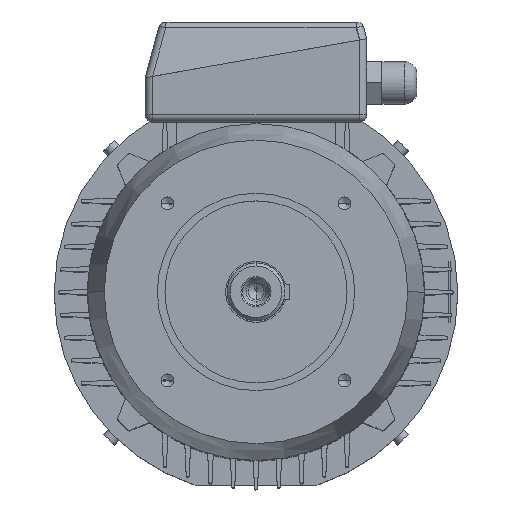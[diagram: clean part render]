
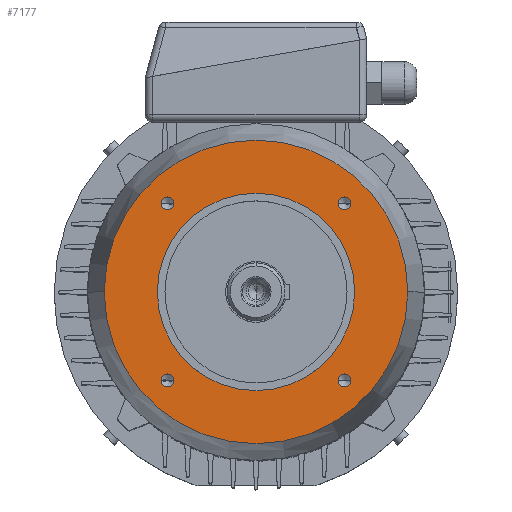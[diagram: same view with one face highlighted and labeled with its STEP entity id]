
A CAD part, top view. The second image highlights one B-rep face of the part: STEP entity #7177.
In plain terms, the highlighted planar face has unit normal (0, 0, 1).
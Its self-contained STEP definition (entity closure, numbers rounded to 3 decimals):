
#16 = CARTESIAN_POINT ( 'NONE',  ( 54.086, 58.336, 58. ) ) ;
#220 = CIRCLE ( 'NONE', #221, 4.25 ) ;
#221 = AXIS2_PLACEMENT_3D ( 'NONE', #222, #229, #230 ) ;
#222 = CARTESIAN_POINT ( 'NONE',  ( 58.336, -58.336, 58. ) ) ;
#229 = DIRECTION ( 'NONE',  ( 0., 0., 1. ) ) ;
#230 = DIRECTION ( 'NONE',  ( 1., 0., 0. ) ) ;
#236 = CIRCLE ( 'NONE', #237, 4.25 ) ;
#237 = AXIS2_PLACEMENT_3D ( 'NONE', #238, #239, #240 ) ;
#238 = CARTESIAN_POINT ( 'NONE',  ( 58.336, 58.336, 58. ) ) ;
#239 = DIRECTION ( 'NONE',  ( 0., 0., 1. ) ) ;
#240 = DIRECTION ( 'NONE',  ( 1., 0., 0. ) ) ;
#392 = CARTESIAN_POINT ( 'NONE',  ( -62.586, 58.336, 58. ) ) ;
#1149 = CARTESIAN_POINT ( 'NONE',  ( 54.086, -58.336, 58. ) ) ;
#1386 = FACE_BOUND ( 'NONE', #7123, .T. ) ;
#1387 = FACE_OUTER_BOUND ( 'NONE', #6744, .T. ) ;
#1388 = FACE_BOUND ( 'NONE', #8594, .T. ) ;
#1389 = FACE_BOUND ( 'NONE', #8575, .T. ) ;
#1390 = FACE_BOUND ( 'NONE', #8180, .T. ) ;
#1391 = FACE_BOUND ( 'NONE', #7789, .T. ) ;
#1392 = PLANE ( 'NONE',  #1393 ) ;
#1393 = AXIS2_PLACEMENT_3D ( 'NONE', #1394, #1395, #1396 ) ;
#1394 = CARTESIAN_POINT ( 'NONE',  ( 0., 100., 58. ) ) ;
#1395 = DIRECTION ( 'NONE',  ( 0., 0., -1. ) ) ;
#1396 = DIRECTION ( 'NONE',  ( -1., 0., 0. ) ) ;
#3809 = CIRCLE ( 'NONE', #3810, 4.25 ) ;
#3810 = AXIS2_PLACEMENT_3D ( 'NONE', #3811, #3812, #3813 ) ;
#3811 = CARTESIAN_POINT ( 'NONE',  ( 58.336, -58.336, 58. ) ) ;
#3812 = DIRECTION ( 'NONE',  ( 0., 0., 1. ) ) ;
#3813 = DIRECTION ( 'NONE',  ( 1., 0., 0. ) ) ;
#4250 = CARTESIAN_POINT ( 'NONE',  ( -54.086, -58.336, 58. ) ) ;
#4374 = CIRCLE ( 'NONE', #4375, 4.25 ) ;
#4375 = AXIS2_PLACEMENT_3D ( 'NONE', #4376, #4377, #4378 ) ;
#4376 = CARTESIAN_POINT ( 'NONE',  ( -58.336, -58.336, 58. ) ) ;
#4377 = DIRECTION ( 'NONE',  ( 0., 0., 1. ) ) ;
#4378 = DIRECTION ( 'NONE',  ( 1., 0., 0. ) ) ;
#4484 = CARTESIAN_POINT ( 'NONE',  ( -65., 0., 58. ) ) ;
#4555 = CARTESIAN_POINT ( 'NONE',  ( 65., 0., 58. ) ) ;
#4684 = CIRCLE ( 'NONE', #4685, 4.25 ) ;
#4685 = AXIS2_PLACEMENT_3D ( 'NONE', #4686, #4687, #4688 ) ;
#4686 = CARTESIAN_POINT ( 'NONE',  ( -58.336, -58.336, 58. ) ) ;
#4687 = DIRECTION ( 'NONE',  ( 0., 0., 1. ) ) ;
#4688 = DIRECTION ( 'NONE',  ( 1., 0., 0. ) ) ;
#4739 = CIRCLE ( 'NONE', #4740, 65. ) ;
#4740 = AXIS2_PLACEMENT_3D ( 'NONE', #4741, #4742, #4743 ) ;
#4741 = CARTESIAN_POINT ( 'NONE',  ( 0., 0., 58. ) ) ;
#4742 = DIRECTION ( 'NONE',  ( 0., 0., 1. ) ) ;
#4743 = DIRECTION ( 'NONE',  ( 1., 0., 0. ) ) ;
#4869 = CARTESIAN_POINT ( 'NONE',  ( -62.586, -58.336, 58. ) ) ;
#4881 = VERTEX_POINT ( 'NONE', #11550 ) ;
#5129 = VERTEX_POINT ( 'NONE', #11676 ) ;
#5310 = CIRCLE ( 'NONE', #5311, 65. ) ;
#5311 = AXIS2_PLACEMENT_3D ( 'NONE', #5312, #5313, #5314 ) ;
#5312 = CARTESIAN_POINT ( 'NONE',  ( 0., 0., 58. ) ) ;
#5313 = DIRECTION ( 'NONE',  ( 0., 0., 1. ) ) ;
#5314 = DIRECTION ( 'NONE',  ( 1., 0., 0. ) ) ;
#5368 = EDGE_CURVE ( 'NONE', #5129, #4881, #11751, .T. ) ;
#5447 = ORIENTED_EDGE ( 'NONE', *, *, #6733, .F. ) ;
#6012 = EDGE_CURVE ( 'NONE', #6673, #6938, #12029, .T. ) ;
#6372 = CARTESIAN_POINT ( 'NONE',  ( 62.586, -58.336, 58. ) ) ;
#6572 = EDGE_CURVE ( 'NONE', #4881, #5129, #12339, .T. ) ;
#6582 = VERTEX_POINT ( 'NONE', #12358 ) ;
#6616 = ORIENTED_EDGE ( 'NONE', *, *, #6572, .T. ) ;
#6636 = EDGE_CURVE ( 'NONE', #6844, #6582, #12472, .T. ) ;
#6673 = VERTEX_POINT ( 'NONE', #12573 ) ;
#6733 = EDGE_CURVE ( 'NONE', #6938, #6673, #12706, .T. ) ;
#6744 = EDGE_LOOP ( 'NONE', ( #6616, #8659 ) ) ;
#6791 = ORIENTED_EDGE ( 'NONE', *, *, #6636, .F. ) ;
#6844 = VERTEX_POINT ( 'NONE', #16 ) ;
#6907 = EDGE_CURVE ( 'NONE', #6582, #6844, #236, .T. ) ;
#6938 = VERTEX_POINT ( 'NONE', #392 ) ;
#6996 = ORIENTED_EDGE ( 'NONE', *, *, #6907, .F. ) ;
#7123 = EDGE_LOOP ( 'NONE', ( #6996, #6791 ) ) ;
#7177 = ADVANCED_FACE ( 'NONE', ( #1386, #1387, #1388, #1389, #1390, #1391 ), #1392, .F. ) ;
#7696 = ORIENTED_EDGE ( 'NONE', *, *, #6012, .F. ) ;
#7789 = EDGE_LOOP ( 'NONE', ( #7696, #5447 ) ) ;
#7846 = ORIENTED_EDGE ( 'NONE', *, *, #10689, .F. ) ;
#7970 = EDGE_CURVE ( 'NONE', #10445, #11675, #3809, .T. ) ;
#8064 = ORIENTED_EDGE ( 'NONE', *, *, #7970, .F. ) ;
#8179 = VERTEX_POINT ( 'NONE', #4250 ) ;
#8180 = EDGE_LOOP ( 'NONE', ( #8064, #7846 ) ) ;
#8238 = EDGE_CURVE ( 'NONE', #8453, #8179, #4374, .T. ) ;
#8244 = ORIENTED_EDGE ( 'NONE', *, *, #8238, .F. ) ;
#8272 = VERTEX_POINT ( 'NONE', #4484 ) ;
#8325 = VERTEX_POINT ( 'NONE', #4555 ) ;
#8376 = EDGE_CURVE ( 'NONE', #8179, #8453, #4684, .T. ) ;
#8392 = EDGE_CURVE ( 'NONE', #8325, #8272, #4739, .T. ) ;
#8436 = ORIENTED_EDGE ( 'NONE', *, *, #8392, .F. ) ;
#8453 = VERTEX_POINT ( 'NONE', #4869 ) ;
#8462 = ORIENTED_EDGE ( 'NONE', *, *, #8376, .F. ) ;
#8575 = EDGE_LOOP ( 'NONE', ( #8462, #8244 ) ) ;
#8594 = EDGE_LOOP ( 'NONE', ( #8436, #8721 ) ) ;
#8638 = EDGE_CURVE ( 'NONE', #8272, #8325, #5310, .T. ) ;
#8659 = ORIENTED_EDGE ( 'NONE', *, *, #5368, .T. ) ;
#8721 = ORIENTED_EDGE ( 'NONE', *, *, #8638, .F. ) ;
#10445 = VERTEX_POINT ( 'NONE', #6372 ) ;
#10689 = EDGE_CURVE ( 'NONE', #11675, #10445, #220, .T. ) ;
#11550 = CARTESIAN_POINT ( 'NONE',  ( -100., 0., 58. ) ) ;
#11675 = VERTEX_POINT ( 'NONE', #1149 ) ;
#11676 = CARTESIAN_POINT ( 'NONE',  ( 100., 0., 58. ) ) ;
#11751 = CIRCLE ( 'NONE', #11752, 100. ) ;
#11752 = AXIS2_PLACEMENT_3D ( 'NONE', #11753, #11754, #11755 ) ;
#11753 = CARTESIAN_POINT ( 'NONE',  ( 0., 0., 58. ) ) ;
#11754 = DIRECTION ( 'NONE',  ( 0., 0., 1. ) ) ;
#11755 = DIRECTION ( 'NONE',  ( 1., 0., 0. ) ) ;
#12029 = CIRCLE ( 'NONE', #12030, 4.25 ) ;
#12030 = AXIS2_PLACEMENT_3D ( 'NONE', #12031, #12032, #12033 ) ;
#12031 = CARTESIAN_POINT ( 'NONE',  ( -58.336, 58.336, 58. ) ) ;
#12032 = DIRECTION ( 'NONE',  ( 0., 0., 1. ) ) ;
#12033 = DIRECTION ( 'NONE',  ( 1., 0., 0. ) ) ;
#12339 = CIRCLE ( 'NONE', #12340, 100. ) ;
#12340 = AXIS2_PLACEMENT_3D ( 'NONE', #12341, #12342, #12343 ) ;
#12341 = CARTESIAN_POINT ( 'NONE',  ( 0., 0., 58. ) ) ;
#12342 = DIRECTION ( 'NONE',  ( 0., 0., 1. ) ) ;
#12343 = DIRECTION ( 'NONE',  ( 1., 0., 0. ) ) ;
#12358 = CARTESIAN_POINT ( 'NONE',  ( 62.586, 58.336, 58. ) ) ;
#12472 = CIRCLE ( 'NONE', #12473, 4.25 ) ;
#12473 = AXIS2_PLACEMENT_3D ( 'NONE', #12481, #12482, #12483 ) ;
#12481 = CARTESIAN_POINT ( 'NONE',  ( 58.336, 58.336, 58. ) ) ;
#12482 = DIRECTION ( 'NONE',  ( 0., 0., 1. ) ) ;
#12483 = DIRECTION ( 'NONE',  ( 1., 0., 0. ) ) ;
#12573 = CARTESIAN_POINT ( 'NONE',  ( -54.086, 58.336, 58. ) ) ;
#12706 = CIRCLE ( 'NONE', #12707, 4.25 ) ;
#12707 = AXIS2_PLACEMENT_3D ( 'NONE', #12708, #12709, #12710 ) ;
#12708 = CARTESIAN_POINT ( 'NONE',  ( -58.336, 58.336, 58. ) ) ;
#12709 = DIRECTION ( 'NONE',  ( 0., 0., 1. ) ) ;
#12710 = DIRECTION ( 'NONE',  ( 1., 0., 0. ) ) ;
